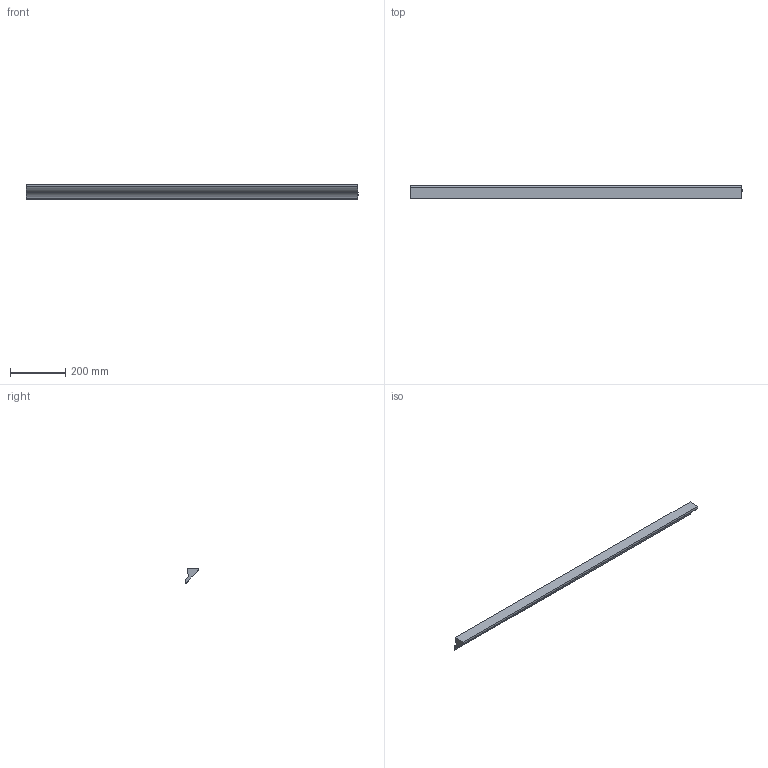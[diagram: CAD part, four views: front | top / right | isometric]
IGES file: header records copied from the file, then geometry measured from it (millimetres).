
Start section: SolidWorks IGES file using analytic representation for surfaces
Global section: file name: C:\Users\Stagiaire\Desktop\Rendu 3D\Micro CORNICHE\190 DOUCINE\190_DOUCINE.IGS; native system: SolidWorks 2014; preprocessor: SolidWorks 2014; author: Stagiaire; date: 140915.115757; units: millimetre
Bounding box: 1200 x 47 x 57 mm (x, y, z)
Surface area: 225030.5 mm2 (no closed solid volume)
Topology: 0 solids, 0 shells, 15 faces, 104 edges, 104 vertices
Faces by surface type: bspline 12, revolution 3
